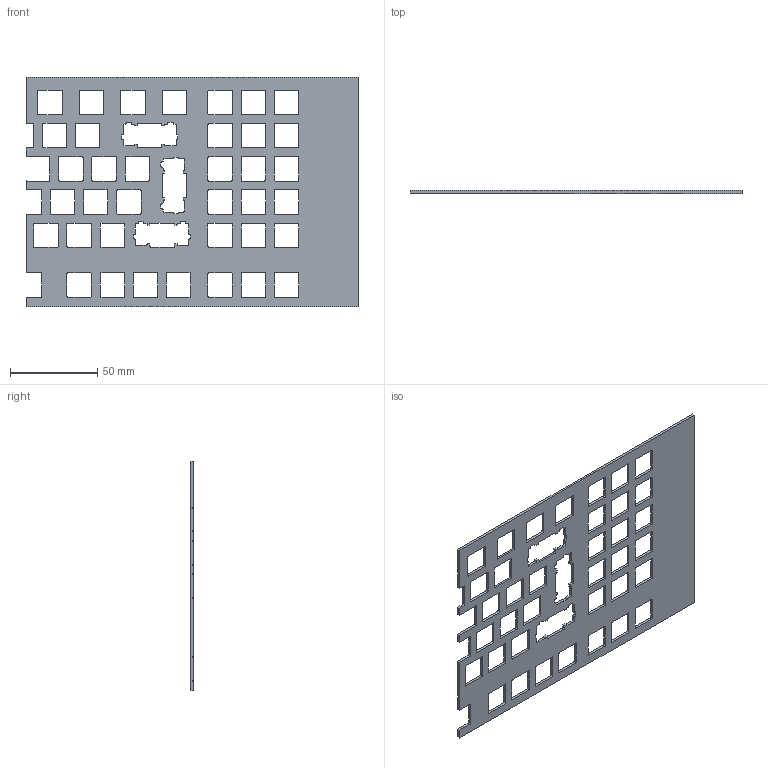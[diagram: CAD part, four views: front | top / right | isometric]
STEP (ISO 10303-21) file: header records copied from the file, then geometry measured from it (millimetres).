
FILE_DESCRIPTION(/* description */ (''),/* implementation_level */ '2;1');
FILE_NAME(/* name */ 'plate RIGHT.step',/* time_stamp */ '2026-03-03T07:29:10Z',/* author */ (''),/* organization */ (''),/* preprocessor_version */ 'ST-DEVELOPER v20.1',/* originating_system */ 'Autodesk Translation Framework v14.24.0.0',/* authorisation */ '');
FILE_SCHEMA (('AUTOMOTIVE_DESIGN { 1 0 10303 214 3 1 1 }'));
Length unit declared in the file: millimetre
Products named in the file (1): plate
Bounding box: 190.58 x 1.5 x 131.82 mm (x, y, z)
Volume: 24245.3 mm3; surface area: 36902.2 mm2
Topology: 1 solids, 1 shells, 508 faces, 1518 edges, 1012 vertices
Faces by surface type: plane 278, cylinder 230
Entity records: 17382 total; most frequent: CARTESIAN_POINT 3039, ORIENTED_EDGE 3036, DIRECTION 2996, EDGE_CURVE 1518, LINE 1058, VECTOR 1058, VERTEX_POINT 1012, AXIS2_PLACEMENT_3D 969
